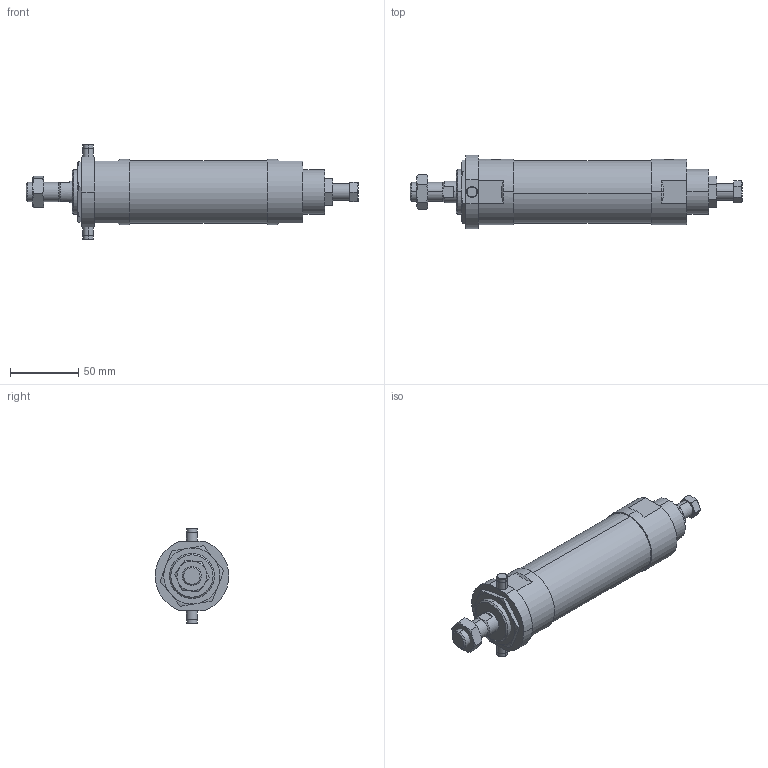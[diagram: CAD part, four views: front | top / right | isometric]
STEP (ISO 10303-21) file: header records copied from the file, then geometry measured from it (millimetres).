
FILE_DESCRIPTION (( 'STEP AP203' ), '1' );
FILE_NAME ('JGA2-40-50-T.STEP', '2016-04-20T05:10:24', ( '' ), ( '' ), 'SwSTEP 2.0', 'SolidWorks 2014', '' );
FILE_SCHEMA (( 'CONFIG_CONTROL_DESIGN' ));
Length unit declared in the file: millimetre
Products named in the file (7): J#2-40-T; JGA2-40A; 40-50; M14x1.5-8mm; JGLH2-40B; JGA2-40-50-T; M33x2-3mm
Assembly tree (6 placements, depth 2):
  JGA2-40-50-T
    JGLH2-40B
    40-50
    JGA2-40A
    M14x1.5-8mm
    M33x2-3mm
    J#2-40-T
Bounding box: 243.5 x 53.91 x 70 mm (x, y, z)
Volume: 313326.4 mm3; surface area: 49484.9 mm2
Topology: 6 solids, 6 shells, 151 faces, 343 edges, 210 vertices
Faces by surface type: plane 54, cylinder 37, torus 36, cone 24
Entity records: 5494 total; most frequent: CARTESIAN_POINT 1447, DIRECTION 699, ORIENTED_EDGE 678, EDGE_CURVE 339, AXIS2_PLACEMENT_3D 286, VERTEX_POINT 210, EDGE_LOOP 167, ADVANCED_FACE 151
